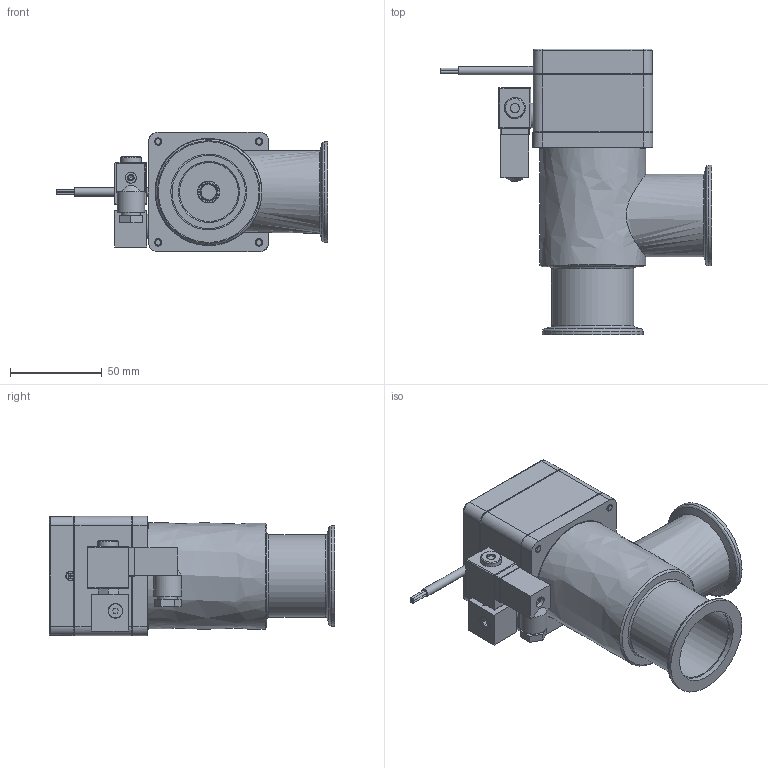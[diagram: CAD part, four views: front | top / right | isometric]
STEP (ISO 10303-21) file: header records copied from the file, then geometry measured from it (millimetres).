
FILE_DESCRIPTION((''),'2;1');
FILE_NAME('C:\TEMP\IDEAS\325574.stp','2006-09-19T16:09:41',('User'),( 'SDRC'),'I-DEAS Master Series 9','UNIX','Yes');
FILE_SCHEMA(('CONFIG_CONTROL_DESIGN'));
Length unit declared in the file: millimetre
Assembly tree (19 placements, depth 0):
Bounding box: 148.18 x 155.7 x 65.4 mm (x, y, z)
Volume: 161728.6 mm3; surface area: 122198.3 mm2
Topology: 16 solids, 19 shells, 686 faces, 1673 edges, 1088 vertices
Faces by surface type: bspline 686
Entity records: 21486 total; most frequent: CARTESIAN_POINT 10535, ORIENTED_EDGE 2916, EDGE_CURVE 1458, VERTEX_POINT 948, EDGE_LOOP 696, FACE_OUTER_BOUND 594, ADVANCED_FACE 594, QUASI_UNIFORM_CURVE 546
